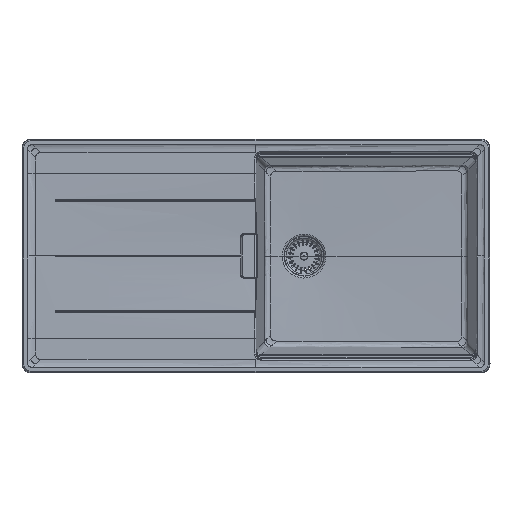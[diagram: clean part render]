
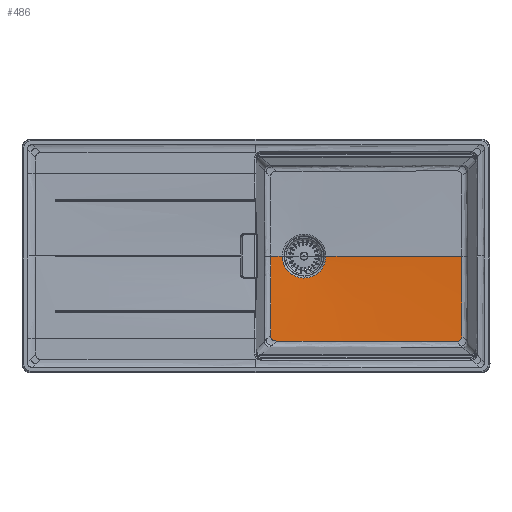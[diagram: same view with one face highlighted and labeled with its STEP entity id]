
A CAD part, top view. The second image highlights one B-rep face of the part: STEP entity #486.
In plain terms, the highlighted free-form (B-spline) face has degree [1, 2] with [2, 9] control points.
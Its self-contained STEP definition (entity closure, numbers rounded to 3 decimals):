
#486=ADVANCED_FACE('',(#927),#7703,.T.);
#927=FACE_OUTER_BOUND('',#1450,.T.);
#1450=EDGE_LOOP('',(#3305,#3306,#3307,#3308,#3309,#3310,#3311,#3312,#3313));
#3305=ORIENTED_EDGE('',*,*,#4973,.F.);
#3306=ORIENTED_EDGE('',*,*,#5200,.F.);
#3307=ORIENTED_EDGE('',*,*,#5201,.F.);
#3308=ORIENTED_EDGE('',*,*,#4962,.F.);
#3309=ORIENTED_EDGE('',*,*,#4963,.F.);
#3310=ORIENTED_EDGE('',*,*,#4972,.F.);
#3311=ORIENTED_EDGE('',*,*,#4969,.F.);
#3312=ORIENTED_EDGE('',*,*,#4971,.F.);
#3313=ORIENTED_EDGE('',*,*,#4970,.F.);
#4962=EDGE_CURVE('',#7252,#7251,#6076,.T.);
#4963=EDGE_CURVE('',#7249,#7252,#6077,.T.);
#4969=EDGE_CURVE('',#7256,#7254,#6083,.T.);
#4970=EDGE_CURVE('',#7258,#7259,#6543,.T.);
#4971=EDGE_CURVE('',#7259,#7256,#6084,.T.);
#4972=EDGE_CURVE('',#7254,#7249,#6085,.T.);
#4973=EDGE_CURVE('',#7261,#7258,#6086,.T.);
#5200=EDGE_CURVE('',#7260,#7261,#6289,.T.);
#5201=EDGE_CURVE('',#7251,#7260,#6290,.T.);
#6076=B_SPLINE_CURVE_WITH_KNOTS('',3,(#66416,#66417,#66418,#66419),
 .UNSPECIFIED.,.F.,.F.,(4,4),(-1.,0.),.UNSPECIFIED.);
#6077=B_SPLINE_CURVE_WITH_KNOTS('',3,(#66420,#66421,#66422,#66423,#66424,
#66425),.UNSPECIFIED.,.F.,.F.,(4,2,4),(-1.,-0.5,0.),.UNSPECIFIED.);
#6083=B_SPLINE_CURVE_WITH_KNOTS('',3,(#66462,#66463,#66464,#66465,#66466,
#66467,#66468),.UNSPECIFIED.,.F.,.F.,(4,1,1,1,4),(-1.,-0.75,
-0.5,-0.25,0.),.UNSPECIFIED.);
#6084=B_SPLINE_CURVE_WITH_KNOTS('',1,(#66474,#66475),.UNSPECIFIED.,.F.,
 .F.,(2,2),(0.,290.766),.UNSPECIFIED.);
#6085=B_SPLINE_CURVE_WITH_KNOTS('',3,(#66476,#66477,#66478,#66479,#66480,
#66481),.UNSPECIFIED.,.F.,.F.,(4,2,4),(-1.,-0.501,0.),
 .UNSPECIFIED.);
#6086=B_SPLINE_CURVE_WITH_KNOTS('',1,(#66482,#66483),.UNSPECIFIED.,.F.,
 .F.,(2,2),(0.,24.703),.UNSPECIFIED.);
#6289=B_SPLINE_CURVE_WITH_KNOTS('',3,(#68209,#68210,#68211,#68212,#68213,
#68214,#68215,#68216),.UNSPECIFIED.,.F.,.F.,(4,1,1,1,1,4),(-1.,-0.75,
-0.625,-0.5,-0.25,0.),
 .UNSPECIFIED.);
#6290=B_SPLINE_CURVE_WITH_KNOTS('',3,(#68217,#68218,#68219,#68220,#68221,
#68222,#68223,#68224,#68225,#68226,#68227,#68228),.UNSPECIFIED.,.F.,.F.,
(4,2,2,2,2,4),(-1.,-0.875,-0.75,-0.5,-0.25,0.),.UNSPECIFIED.);
#6543=(
BOUNDED_CURVE()
B_SPLINE_CURVE(2,(#66469,#66470,#66471,#66472,#66473),.UNSPECIFIED.,.F.,
 .F.)
B_SPLINE_CURVE_WITH_KNOTS((3,2,3),(-146.884,-73.442,
0.),.UNSPECIFIED.)
CURVE()
GEOMETRIC_REPRESENTATION_ITEM()
RATIONAL_B_SPLINE_CURVE((1.,0.707,1.,0.707,1.))
REPRESENTATION_ITEM('')
);
#7249=VERTEX_POINT('',#64396);
#7251=VERTEX_POINT('',#64398);
#7252=VERTEX_POINT('',#64399);
#7254=VERTEX_POINT('',#64401);
#7256=VERTEX_POINT('',#64403);
#7258=VERTEX_POINT('',#64405);
#7259=VERTEX_POINT('',#64406);
#7260=VERTEX_POINT('',#64407);
#7261=VERTEX_POINT('',#64408);
#7703=(
BOUNDED_SURFACE()
B_SPLINE_SURFACE(1,2,((#52800,#52801,#52802,#52803,#52804,#52805,#52806,
#52807,#52808),(#52809,#52810,#52811,#52812,#52813,#52814,#52815,#52816,
#52817)),.UNSPECIFIED.,.F.,.F.,.F.)
B_SPLINE_SURFACE_WITH_KNOTS((2,2),(3,2,2,2,3),(0.,453.054),(0.,
710.978,1421.956,2132.935,2843.913),
 .UNSPECIFIED.)
GEOMETRIC_REPRESENTATION_ITEM()
RATIONAL_B_SPLINE_SURFACE(((1.,0.707,1.,0.707,1.,
0.707,1.,0.707,1.),(1.,0.707,1.,0.707,
1.,0.707,1.,0.707,1.)))
REPRESENTATION_ITEM('')
SURFACE()
);
#52800=CARTESIAN_POINT('',(52.66,-64.,-198.889));
#52801=CARTESIAN_POINT('',(52.66,-64.,-198.889));
#52802=CARTESIAN_POINT('',(52.66,-64.,-198.889));
#52803=CARTESIAN_POINT('',(52.66,-64.,-198.889));
#52804=CARTESIAN_POINT('',(52.66,-64.,-198.889));
#52805=CARTESIAN_POINT('',(52.66,-64.,-198.889));
#52806=CARTESIAN_POINT('',(52.66,-64.,-198.889));
#52807=CARTESIAN_POINT('',(52.66,-64.,-198.889));
#52808=CARTESIAN_POINT('',(52.66,-64.,-198.889));
#52809=CARTESIAN_POINT('',(52.66,388.623,-179.127));
#52810=CARTESIAN_POINT('',(-399.963,388.623,-179.127));
#52811=CARTESIAN_POINT('',(-399.963,-64.,-179.127));
#52812=CARTESIAN_POINT('',(-399.963,-516.623,-179.127));
#52813=CARTESIAN_POINT('',(52.66,-516.623,-179.127));
#52814=CARTESIAN_POINT('',(505.283,-516.623,-179.127));
#52815=CARTESIAN_POINT('',(505.283,-64.,-179.127));
#52816=CARTESIAN_POINT('',(505.283,388.623,-179.127));
#52817=CARTESIAN_POINT('',(52.66,388.623,-179.127));
#64396=CARTESIAN_POINT('',(377.986,-246.277,-182.607));
#64398=CARTESIAN_POINT('',(-6.348,-245.436,-190.559));
#64399=CARTESIAN_POINT('',(52.66,-245.382,-190.97));
#64401=CARTESIAN_POINT('',(389.957,-233.802,-182.401));
#64403=CARTESIAN_POINT('',(389.903,-64.,-184.165));
#64405=CARTESIAN_POINT('',(5.905,-64.,-196.848));
#64406=CARTESIAN_POINT('',(99.415,-64.,-196.848));
#64407=CARTESIAN_POINT('',(-18.811,-232.908,-190.881));
#64408=CARTESIAN_POINT('',(-18.774,-64.,-195.77));
#66416=CARTESIAN_POINT('',(52.66,-245.382,-190.97));
#66417=CARTESIAN_POINT('',(32.99,-245.386,-190.97));
#66418=CARTESIAN_POINT('',(13.321,-245.405,-190.826));
#66419=CARTESIAN_POINT('',(-6.348,-245.436,-190.559));
#66420=CARTESIAN_POINT('',(377.986,-246.277,-182.607));
#66421=CARTESIAN_POINT('',(323.785,-246.061,-184.675));
#66422=CARTESIAN_POINT('',(269.577,-245.842,-186.66));
#66423=CARTESIAN_POINT('',(161.14,-245.488,-189.825));
#66424=CARTESIAN_POINT('',(106.903,-245.37,-190.969));
#66425=CARTESIAN_POINT('',(52.66,-245.382,-190.97));
#66462=CARTESIAN_POINT('',(389.903,-64.,-184.165));
#66463=CARTESIAN_POINT('',(389.89,-78.151,-184.165));
#66464=CARTESIAN_POINT('',(389.862,-106.454,-184.088));
#66465=CARTESIAN_POINT('',(389.843,-148.906,-183.744));
#66466=CARTESIAN_POINT('',(389.877,-191.356,-183.182));
#66467=CARTESIAN_POINT('',(389.927,-219.654,-182.68));
#66468=CARTESIAN_POINT('',(389.957,-233.802,-182.401));
#66469=CARTESIAN_POINT('',(5.905,-64.,-196.848));
#66470=CARTESIAN_POINT('',(5.905,-110.755,-196.848));
#66471=CARTESIAN_POINT('',(52.66,-110.755,-196.848));
#66472=CARTESIAN_POINT('',(99.415,-110.755,-196.848));
#66473=CARTESIAN_POINT('',(99.415,-64.,-196.848));
#66474=CARTESIAN_POINT('',(99.415,-64.,-196.848));
#66475=CARTESIAN_POINT('',(389.903,-64.,-184.165));
#66476=CARTESIAN_POINT('',(389.957,-233.802,-182.401));
#66477=CARTESIAN_POINT('',(389.964,-237.229,-182.334));
#66478=CARTESIAN_POINT('',(389.366,-240.088,-182.3));
#66479=CARTESIAN_POINT('',(384.683,-245.205,-182.375));
#66480=CARTESIAN_POINT('',(381.9,-246.293,-182.458));
#66481=CARTESIAN_POINT('',(377.986,-246.277,-182.607));
#66482=CARTESIAN_POINT('',(-18.774,-64.,-195.77));
#66483=CARTESIAN_POINT('',(5.905,-64.,-196.848));
#68209=CARTESIAN_POINT('',(-18.811,-232.908,-190.881));
#68210=CARTESIAN_POINT('',(-18.753,-218.836,-191.448));
#68211=CARTESIAN_POINT('',(-18.672,-197.73,-192.283));
#68212=CARTESIAN_POINT('',(-18.625,-169.584,-193.336));
#68213=CARTESIAN_POINT('',(-18.628,-141.437,-194.318));
#68214=CARTESIAN_POINT('',(-18.688,-106.246,-195.385));
#68215=CARTESIAN_POINT('',(-18.75,-78.083,-195.772));
#68216=CARTESIAN_POINT('',(-18.774,-64.,-195.77));
#68217=CARTESIAN_POINT('',(-6.348,-245.436,-190.559));
#68218=CARTESIAN_POINT('',(-7.188,-245.438,-190.548));
#68219=CARTESIAN_POINT('',(-8.033,-245.426,-190.536));
#68220=CARTESIAN_POINT('',(-9.702,-245.235,-190.521));
#68221=CARTESIAN_POINT('',(-10.527,-245.047,-190.517));
#68222=CARTESIAN_POINT('',(-12.909,-244.214,-190.516));
#68223=CARTESIAN_POINT('',(-14.369,-243.299,-190.532));
#68224=CARTESIAN_POINT('',(-16.767,-240.944,-190.59));
#68225=CARTESIAN_POINT('',(-17.704,-239.491,-190.634));
#68226=CARTESIAN_POINT('',(-18.749,-236.295,-190.746));
#68227=CARTESIAN_POINT('',(-18.818,-234.587,-190.814));
#68228=CARTESIAN_POINT('',(-18.811,-232.908,-190.881));
